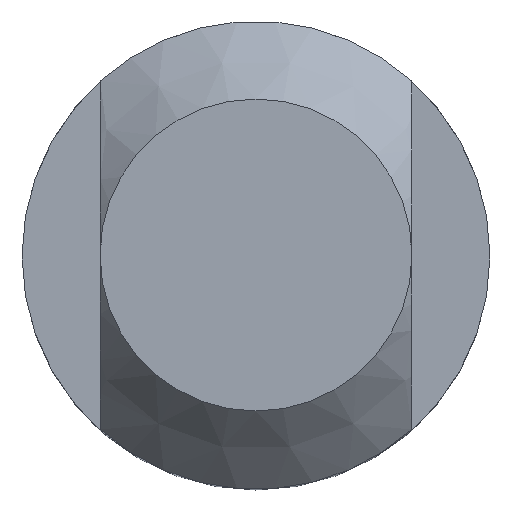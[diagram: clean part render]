
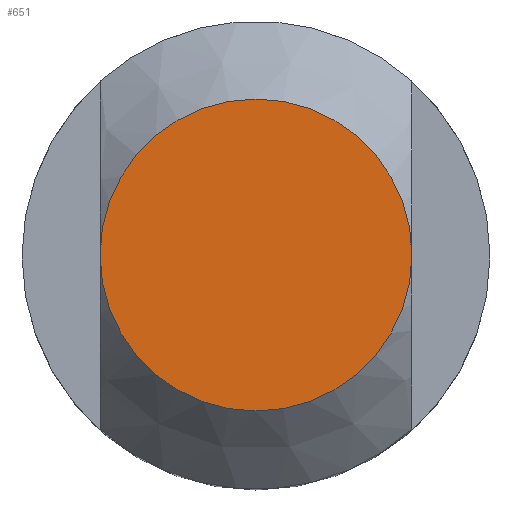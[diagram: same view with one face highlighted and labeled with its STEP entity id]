
A CAD part, top view. The second image highlights one B-rep face of the part: STEP entity #651.
In plain terms, the highlighted planar face has unit normal (0, 0, 1).
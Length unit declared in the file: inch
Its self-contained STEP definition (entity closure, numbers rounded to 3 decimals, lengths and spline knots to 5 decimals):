
#167=CARTESIAN_POINT('',(-0.75,0.,3.82));
#169=CARTESIAN_POINT('',(0.,0.,3.82));
#170=DIRECTION('',(0.,0.,1.));
#171=DIRECTION('',(-1.,0.,0.));
#172=AXIS2_PLACEMENT_3D('',#169,#170,#171);
#211=CARTESIAN_POINT('',(0.75,0.,3.82));
#213=CARTESIAN_POINT('',(0.,0.,3.82));
#214=DIRECTION('',(0.,0.,1.));
#215=DIRECTION('',(1.,0.,0.));
#216=AXIS2_PLACEMENT_3D('',#213,#214,#215);
#361=VERTEX_POINT('',#211);
#362=VERTEX_POINT('',#167);
#642=CARTESIAN_POINT('',(0.,0.,3.82));
#643=DIRECTION('',(0.,0.,1.));
#644=DIRECTION('',(1.,0.,0.));
#645=AXIS2_PLACEMENT_3D('',#642,#643,#644);
#646=PLANE('',#645);
#647=ORIENTED_EDGE('',*,*,#636,.F.);
#648=ORIENTED_EDGE('',*,*,#603,.F.);
#649=EDGE_LOOP('',(#647,#648));
#650=FACE_OUTER_BOUND('',#649,.F.);
#651=ADVANCED_FACE('',(#650),#646,.T.);
#173=CIRCLE('',#172,0.75);
#217=CIRCLE('',#216,0.75);
#603=EDGE_CURVE('',#362,#361,#173,.T.);
#636=EDGE_CURVE('',#361,#362,#217,.T.);
